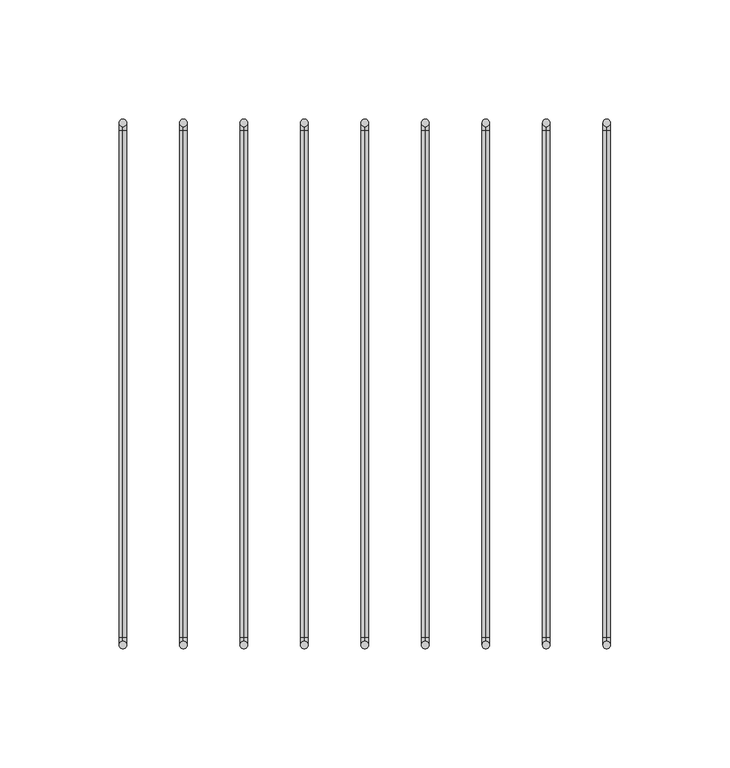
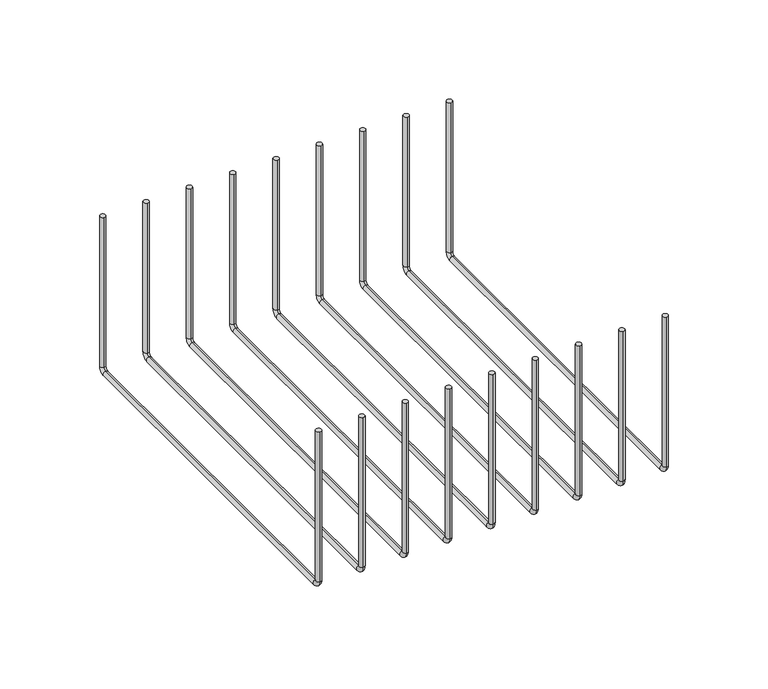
"""IFC4 building model written with IfcOpenShell, lengths in millimetres: furniture geometry."""

from ifc_helpers import new_model, si_unit, point, frame, origin, place, context, project, spatial, circle_curve, ellipse_curve, trimmed, source, transform, mapped, element, save
from ifc_brep_helpers import plane_surface, cylinder_surface, revolved_surface, advanced_brep


def furniture_5af42f3c(model_context):
    return source(origin(), model_context, "Body", "AdvancedBrep", [
        advanced_brep(
        [(100.71608, -152.3273724, 1249.3942846), (100.71608, -149.1523724, 1249.3942846), (100.71608, 69.9226276, 1249.3942846), (100.71608, 66.7476276, 1249.3942846), (100.71608, -152.3273724, 1156.525988), (100.71608, -149.1523724, 1156.525988), (100.71608, -147.5648724, 1154.938488), (100.71608, -147.5648724, 1151.763488), (100.71608, 65.1601276, 1151.763488), (100.71608, 65.1601276, 1154.938488), (100.71608, 66.7476276, 1156.525988), (100.71608, 69.9226276, 1156.525988)],
        [
            (0, 1, circle_curve(frame((100.71608, -150.7398724, 1249.3942846), z_axis=(0.0, 0.0, 1.0), x_axis=(1.0, 0.0, 0.0)), 1.5875)),
            (1, 0, circle_curve(frame((100.71608, -150.7398724, 1249.3942846), z_axis=(0.0, 0.0, 1.0), x_axis=(1.0, 0.0, 0.0)), 1.5875)),
            (2, 3, circle_curve(frame((100.71608, 68.3351276, 1249.3942846), z_axis=(0.0, 0.0, 1.0), x_axis=(1.0, 0.0, 0.0)), 1.5875)),
            (3, 2, circle_curve(frame((100.71608, 68.3351276, 1249.3942846), z_axis=(0.0, 0.0, 1.0), x_axis=(1.0, 0.0, 0.0)), 1.5875)),
            (0, 4),
            (4, 5, circle_curve(frame((100.71608, -150.7398724, 1156.525988), z_axis=(0.0, 0.0, 1.0), x_axis=(1.0, 0.0, 0.0)), 1.5875)),
            (5, 1),
            (5, 4, circle_curve(frame((100.71608, -150.7398724, 1156.525988), z_axis=(0.0, 0.0, 1.0), x_axis=(1.0, 0.0, 0.0)), 1.5875)),
            (6, 7, circle_curve(frame((100.71608, -147.5648724, 1153.350988), z_axis=(0.0, 1.0, 0.0), x_axis=(1.0, 0.0, 0.0)), 1.5875)),
            (7, 8),
            (8, 9, circle_curve(frame((100.71608, 65.1601276, 1153.350988), z_axis=(0.0, -1.0, 0.0), x_axis=(1.0, 0.0, 0.0)), 1.5875)),
            (9, 6),
            (7, 6, circle_curve(frame((100.71608, -147.5648724, 1153.350988), z_axis=(0.0, 1.0, 0.0), x_axis=(1.0, 0.0, 0.0)), 1.5875)),
            (9, 8, circle_curve(frame((100.71608, 65.1601276, 1153.350988), z_axis=(0.0, -1.0, 0.0), x_axis=(1.0, 0.0, 0.0)), 1.5875)),
            (10, 11, circle_curve(frame((100.71608, 68.3351276, 1156.525988), z_axis=(0.0, 0.0, 1.0), x_axis=(1.0, 0.0, 0.0)), 1.5875)),
            (11, 2),
            (3, 10),
            (11, 10, circle_curve(frame((100.71608, 68.3351276, 1156.525988), z_axis=(0.0, 0.0, 1.0), x_axis=(1.0, 0.0, 0.0)), 1.5875)),
            (6, 5, circle_curve(frame((100.71608, -147.5648724, 1156.525988), z_axis=(-1.0, 0.0, 0.0), x_axis=(0.0, -1.0, 0.0)), 1.5875)),
            (4, 7, circle_curve(frame((100.71608, -147.5648724, 1156.525988), z_axis=(1.0, 0.0, 0.0), x_axis=(0.0, -1.0, 0.0)), 4.7625)),
            (10, 9, circle_curve(frame((100.71608, 65.1601276, 1156.525988), z_axis=(-1.0, 0.0, 0.0), x_axis=(0.0, 0.0, -1.0)), 1.5875)),
            (8, 11, circle_curve(frame((100.71608, 65.1601276, 1156.525988), z_axis=(1.0, 0.0, 0.0), x_axis=(0.0, 0.0, -1.0)), 4.7625)),
        ],
        [
            plane_surface(frame((100.71608, -152.3273724, 1249.3942846), z_axis=(0.0, 0.0, 1.0), x_axis=(1.0, 0.0, 0.0))),
            plane_surface(frame((100.71608, 69.9226276, 1249.3942846), z_axis=(0.0, 0.0, 1.0), x_axis=(1.0, 0.0, 0.0))),
            cylinder_surface(frame((100.71608, -150.7398724, 1249.3942846), z_axis=(0.0, 0.0, 1.0), x_axis=(1.0, 0.0, 0.0)), 1.5875),
            cylinder_surface(frame((100.71608, -147.5648724, 1153.350988), z_axis=(0.0, -1.0, 0.0), x_axis=(1.0, 0.0, 0.0)), 1.5875),
            cylinder_surface(frame((100.71608, 68.3351276, 1156.525988), z_axis=(0.0, 0.0, -1.0), x_axis=(1.0, 0.0, 0.0)), 1.5875),
            revolved_surface(trimmed(ellipse_curve(frame((100.71608, -150.7398724, 1156.525988), z_axis=(0.0, 0.0, 1.0), x_axis=(1.0, 0.0, 0.0)), 1.5875, 1.5875), [point((100.71608, -152.3273724, 1156.525988))], [point((100.71608, -149.1523724, 1156.525988))], True, "CARTESIAN"), (100.71608, -147.5648724, 1156.525988), (1.0, 0.0, 0.0)),
            revolved_surface(trimmed(ellipse_curve(frame((100.71608, -150.7398724, 1156.525988), z_axis=(0.0, 0.0, 1.0), x_axis=(1.0, 0.0, 0.0)), 1.5875, 1.5875), [point((100.71608, -149.1523724, 1156.525988))], [point((100.71608, -152.3273724, 1156.525988))], True, "CARTESIAN"), (100.71608, -147.5648724, 1156.525988), (1.0, 0.0, 0.0)),
            revolved_surface(trimmed(ellipse_curve(frame((100.71608, 65.1601276, 1153.350988), z_axis=(0.0, -1.0, 0.0), x_axis=(1.0, 0.0, 0.0)), 1.5875, 1.5875), [point((100.71608, 65.1601276, 1151.763488))], [point((100.71608, 65.1601276, 1154.938488))], True, "CARTESIAN"), (100.71608, 65.1601276, 1156.525988), (1.0, 0.0, 0.0)),
            revolved_surface(trimmed(ellipse_curve(frame((100.71608, 65.1601276, 1153.350988), z_axis=(0.0, -1.0, 0.0), x_axis=(1.0, 0.0, 0.0)), 1.5875, 1.5875), [point((100.71608, 65.1601276, 1154.938488))], [point((100.71608, 65.1601276, 1151.763488))], True, "CARTESIAN"), (100.71608, 65.1601276, 1156.525988), (1.0, 0.0, 0.0)),
        ],
        [
            (0, [[1, 2]]),
            (1, [[3, 4]]),
            (2, [[-1, 5, 6, 7]]),
            (2, [[-2, -7, 8, -5]]),
            (3, [[9, 10, 11, 12]]),
            (3, [[13, -12, 14, -10]]),
            (4, [[15, 16, -4, 17]]),
            (4, [[18, -17, -3, -16]]),
            (5, [[19, -6, 20, -9]]),
            (6, [[-20, -8, -19, -13]]),
            (7, [[21, -11, 22, -15]]),
            (8, [[-22, -14, -21, -18]]),
        ],
    ),
        advanced_brep(
        [(75.31608, -152.3273724, 1249.3942846), (75.31608, -149.1523724, 1249.3942846), (75.31608, 69.9226276, 1249.3942846), (75.31608, 66.7476276, 1249.3942846), (75.31608, -152.3273724, 1156.525988), (75.31608, -149.1523724, 1156.525988), (75.31608, -147.5648724, 1154.938488), (75.31608, -147.5648724, 1151.763488), (75.31608, 65.1601276, 1151.763488), (75.31608, 65.1601276, 1154.938488), (75.31608, 66.7476276, 1156.525988), (75.31608, 69.9226276, 1156.525988)],
        [
            (0, 1, circle_curve(frame((75.31608, -150.7398724, 1249.3942846), z_axis=(0.0, 0.0, 1.0), x_axis=(1.0, 0.0, 0.0)), 1.5875)),
            (1, 0, circle_curve(frame((75.31608, -150.7398724, 1249.3942846), z_axis=(0.0, 0.0, 1.0), x_axis=(1.0, 0.0, 0.0)), 1.5875)),
            (2, 3, circle_curve(frame((75.31608, 68.3351276, 1249.3942846), z_axis=(0.0, 0.0, 1.0), x_axis=(1.0, 0.0, 0.0)), 1.5875)),
            (3, 2, circle_curve(frame((75.31608, 68.3351276, 1249.3942846), z_axis=(0.0, 0.0, 1.0), x_axis=(1.0, 0.0, 0.0)), 1.5875)),
            (0, 4),
            (4, 5, circle_curve(frame((75.31608, -150.7398724, 1156.525988), z_axis=(0.0, 0.0, 1.0), x_axis=(1.0, 0.0, 0.0)), 1.5875)),
            (5, 1),
            (5, 4, circle_curve(frame((75.31608, -150.7398724, 1156.525988), z_axis=(0.0, 0.0, 1.0), x_axis=(1.0, 0.0, 0.0)), 1.5875)),
            (6, 7, circle_curve(frame((75.31608, -147.5648724, 1153.350988), z_axis=(0.0, 1.0, 0.0), x_axis=(1.0, 0.0, 0.0)), 1.5875)),
            (7, 8),
            (8, 9, circle_curve(frame((75.31608, 65.1601276, 1153.350988), z_axis=(0.0, -1.0, 0.0), x_axis=(1.0, 0.0, 0.0)), 1.5875)),
            (9, 6),
            (7, 6, circle_curve(frame((75.31608, -147.5648724, 1153.350988), z_axis=(0.0, 1.0, 0.0), x_axis=(1.0, 0.0, 0.0)), 1.5875)),
            (9, 8, circle_curve(frame((75.31608, 65.1601276, 1153.350988), z_axis=(0.0, -1.0, 0.0), x_axis=(1.0, 0.0, 0.0)), 1.5875)),
            (10, 11, circle_curve(frame((75.31608, 68.3351276, 1156.525988), z_axis=(0.0, 0.0, 1.0), x_axis=(1.0, 0.0, 0.0)), 1.5875)),
            (11, 2),
            (3, 10),
            (11, 10, circle_curve(frame((75.31608, 68.3351276, 1156.525988), z_axis=(0.0, 0.0, 1.0), x_axis=(1.0, 0.0, 0.0)), 1.5875)),
            (6, 5, circle_curve(frame((75.31608, -147.5648724, 1156.525988), z_axis=(-1.0, 0.0, 0.0), x_axis=(0.0, -1.0, 0.0)), 1.5875)),
            (4, 7, circle_curve(frame((75.31608, -147.5648724, 1156.525988), z_axis=(1.0, 0.0, 0.0), x_axis=(0.0, -1.0, 0.0)), 4.7625)),
            (10, 9, circle_curve(frame((75.31608, 65.1601276, 1156.525988), z_axis=(-1.0, 0.0, 0.0), x_axis=(0.0, 0.0, -1.0)), 1.5875)),
            (8, 11, circle_curve(frame((75.31608, 65.1601276, 1156.525988), z_axis=(1.0, 0.0, 0.0), x_axis=(0.0, 0.0, -1.0)), 4.7625)),
        ],
        [
            plane_surface(frame((75.31608, -152.3273724, 1249.3942846), z_axis=(0.0, 0.0, 1.0), x_axis=(1.0, 0.0, 0.0))),
            plane_surface(frame((75.31608, 69.9226276, 1249.3942846), z_axis=(0.0, 0.0, 1.0), x_axis=(1.0, 0.0, 0.0))),
            cylinder_surface(frame((75.31608, -150.7398724, 1249.3942846), z_axis=(0.0, 0.0, 1.0), x_axis=(1.0, 0.0, 0.0)), 1.5875),
            cylinder_surface(frame((75.31608, -147.5648724, 1153.350988), z_axis=(0.0, -1.0, 0.0), x_axis=(1.0, 0.0, 0.0)), 1.5875),
            cylinder_surface(frame((75.31608, 68.3351276, 1156.525988), z_axis=(0.0, 0.0, -1.0), x_axis=(1.0, 0.0, 0.0)), 1.5875),
            revolved_surface(trimmed(ellipse_curve(frame((75.31608, -150.7398724, 1156.525988), z_axis=(0.0, 0.0, 1.0), x_axis=(1.0, 0.0, 0.0)), 1.5875, 1.5875), [point((75.31608, -152.3273724, 1156.525988))], [point((75.31608, -149.1523724, 1156.525988))], True, "CARTESIAN"), (75.31608, -147.5648724, 1156.525988), (1.0, 0.0, 0.0)),
            revolved_surface(trimmed(ellipse_curve(frame((75.31608, -150.7398724, 1156.525988), z_axis=(0.0, 0.0, 1.0), x_axis=(1.0, 0.0, 0.0)), 1.5875, 1.5875), [point((75.31608, -149.1523724, 1156.525988))], [point((75.31608, -152.3273724, 1156.525988))], True, "CARTESIAN"), (75.31608, -147.5648724, 1156.525988), (1.0, 0.0, 0.0)),
            revolved_surface(trimmed(ellipse_curve(frame((75.31608, 65.1601276, 1153.350988), z_axis=(0.0, -1.0, 0.0), x_axis=(1.0, 0.0, 0.0)), 1.5875, 1.5875), [point((75.31608, 65.1601276, 1151.763488))], [point((75.31608, 65.1601276, 1154.938488))], True, "CARTESIAN"), (75.31608, 65.1601276, 1156.525988), (1.0, 0.0, 0.0)),
            revolved_surface(trimmed(ellipse_curve(frame((75.31608, 65.1601276, 1153.350988), z_axis=(0.0, -1.0, 0.0), x_axis=(1.0, 0.0, 0.0)), 1.5875, 1.5875), [point((75.31608, 65.1601276, 1154.938488))], [point((75.31608, 65.1601276, 1151.763488))], True, "CARTESIAN"), (75.31608, 65.1601276, 1156.525988), (1.0, 0.0, 0.0)),
        ],
        [
            (0, [[1, 2]]),
            (1, [[3, 4]]),
            (2, [[-1, 5, 6, 7]]),
            (2, [[-2, -7, 8, -5]]),
            (3, [[9, 10, 11, 12]]),
            (3, [[13, -12, 14, -10]]),
            (4, [[15, 16, -4, 17]]),
            (4, [[18, -17, -3, -16]]),
            (5, [[19, -6, 20, -9]]),
            (6, [[-20, -8, -19, -13]]),
            (7, [[21, -11, 22, -15]]),
            (8, [[-22, -14, -21, -18]]),
        ],
    ),
        advanced_brep(
        [(49.91608, -152.3273724, 1249.3942846), (49.91608, -149.1523724, 1249.3942846), (49.91608, 69.9226276, 1249.3942846), (49.91608, 66.7476276, 1249.3942846), (49.91608, -152.3273724, 1156.525988), (49.91608, -149.1523724, 1156.525988), (49.91608, -147.5648724, 1154.938488), (49.91608, -147.5648724, 1151.763488), (49.91608, 65.1601276, 1151.763488), (49.91608, 65.1601276, 1154.938488), (49.91608, 66.7476276, 1156.525988), (49.91608, 69.9226276, 1156.525988)],
        [
            (0, 1, circle_curve(frame((49.91608, -150.7398724, 1249.3942846), z_axis=(0.0, 0.0, 1.0), x_axis=(1.0, 0.0, 0.0)), 1.5875)),
            (1, 0, circle_curve(frame((49.91608, -150.7398724, 1249.3942846), z_axis=(0.0, 0.0, 1.0), x_axis=(1.0, 0.0, 0.0)), 1.5875)),
            (2, 3, circle_curve(frame((49.91608, 68.3351276, 1249.3942846), z_axis=(0.0, 0.0, 1.0), x_axis=(1.0, 0.0, 0.0)), 1.5875)),
            (3, 2, circle_curve(frame((49.91608, 68.3351276, 1249.3942846), z_axis=(0.0, 0.0, 1.0), x_axis=(1.0, 0.0, 0.0)), 1.5875)),
            (0, 4),
            (4, 5, circle_curve(frame((49.91608, -150.7398724, 1156.525988), z_axis=(0.0, 0.0, 1.0), x_axis=(1.0, 0.0, 0.0)), 1.5875)),
            (5, 1),
            (5, 4, circle_curve(frame((49.91608, -150.7398724, 1156.525988), z_axis=(0.0, 0.0, 1.0), x_axis=(1.0, 0.0, 0.0)), 1.5875)),
            (6, 7, circle_curve(frame((49.91608, -147.5648724, 1153.350988), z_axis=(0.0, 1.0, 0.0), x_axis=(1.0, 0.0, 0.0)), 1.5875)),
            (7, 8),
            (8, 9, circle_curve(frame((49.91608, 65.1601276, 1153.350988), z_axis=(0.0, -1.0, 0.0), x_axis=(1.0, 0.0, 0.0)), 1.5875)),
            (9, 6),
            (7, 6, circle_curve(frame((49.91608, -147.5648724, 1153.350988), z_axis=(0.0, 1.0, 0.0), x_axis=(1.0, 0.0, 0.0)), 1.5875)),
            (9, 8, circle_curve(frame((49.91608, 65.1601276, 1153.350988), z_axis=(0.0, -1.0, 0.0), x_axis=(1.0, 0.0, 0.0)), 1.5875)),
            (10, 11, circle_curve(frame((49.91608, 68.3351276, 1156.525988), z_axis=(0.0, 0.0, 1.0), x_axis=(1.0, 0.0, 0.0)), 1.5875)),
            (11, 2),
            (3, 10),
            (11, 10, circle_curve(frame((49.91608, 68.3351276, 1156.525988), z_axis=(0.0, 0.0, 1.0), x_axis=(1.0, 0.0, 0.0)), 1.5875)),
            (6, 5, circle_curve(frame((49.91608, -147.5648724, 1156.525988), z_axis=(-1.0, 0.0, 0.0), x_axis=(0.0, -1.0, 0.0)), 1.5875)),
            (4, 7, circle_curve(frame((49.91608, -147.5648724, 1156.525988), z_axis=(1.0, 0.0, 0.0), x_axis=(0.0, -1.0, 0.0)), 4.7625)),
            (10, 9, circle_curve(frame((49.91608, 65.1601276, 1156.525988), z_axis=(-1.0, 0.0, 0.0), x_axis=(0.0, 0.0, -1.0)), 1.5875)),
            (8, 11, circle_curve(frame((49.91608, 65.1601276, 1156.525988), z_axis=(1.0, 0.0, 0.0), x_axis=(0.0, 0.0, -1.0)), 4.7625)),
        ],
        [
            plane_surface(frame((49.91608, -152.3273724, 1249.3942846), z_axis=(0.0, 0.0, 1.0), x_axis=(1.0, 0.0, 0.0))),
            plane_surface(frame((49.91608, 69.9226276, 1249.3942846), z_axis=(0.0, 0.0, 1.0), x_axis=(1.0, 0.0, 0.0))),
            cylinder_surface(frame((49.91608, -150.7398724, 1249.3942846), z_axis=(0.0, 0.0, 1.0), x_axis=(1.0, 0.0, 0.0)), 1.5875),
            cylinder_surface(frame((49.91608, -147.5648724, 1153.350988), z_axis=(0.0, -1.0, 0.0), x_axis=(1.0, 0.0, 0.0)), 1.5875),
            cylinder_surface(frame((49.91608, 68.3351276, 1156.525988), z_axis=(0.0, 0.0, -1.0), x_axis=(1.0, 0.0, 0.0)), 1.5875),
            revolved_surface(trimmed(ellipse_curve(frame((49.91608, -150.7398724, 1156.525988), z_axis=(0.0, 0.0, 1.0), x_axis=(1.0, 0.0, 0.0)), 1.5875, 1.5875), [point((49.91608, -152.3273724, 1156.525988))], [point((49.91608, -149.1523724, 1156.525988))], True, "CARTESIAN"), (49.91608, -147.5648724, 1156.525988), (1.0, 0.0, 0.0)),
            revolved_surface(trimmed(ellipse_curve(frame((49.91608, -150.7398724, 1156.525988), z_axis=(0.0, 0.0, 1.0), x_axis=(1.0, 0.0, 0.0)), 1.5875, 1.5875), [point((49.91608, -149.1523724, 1156.525988))], [point((49.91608, -152.3273724, 1156.525988))], True, "CARTESIAN"), (49.91608, -147.5648724, 1156.525988), (1.0, 0.0, 0.0)),
            revolved_surface(trimmed(ellipse_curve(frame((49.91608, 65.1601276, 1153.350988), z_axis=(0.0, -1.0, 0.0), x_axis=(1.0, 0.0, 0.0)), 1.5875, 1.5875), [point((49.91608, 65.1601276, 1151.763488))], [point((49.91608, 65.1601276, 1154.938488))], True, "CARTESIAN"), (49.91608, 65.1601276, 1156.525988), (1.0, 0.0, 0.0)),
            revolved_surface(trimmed(ellipse_curve(frame((49.91608, 65.1601276, 1153.350988), z_axis=(0.0, -1.0, 0.0), x_axis=(1.0, 0.0, 0.0)), 1.5875, 1.5875), [point((49.91608, 65.1601276, 1154.938488))], [point((49.91608, 65.1601276, 1151.763488))], True, "CARTESIAN"), (49.91608, 65.1601276, 1156.525988), (1.0, 0.0, 0.0)),
        ],
        [
            (0, [[1, 2]]),
            (1, [[3, 4]]),
            (2, [[-1, 5, 6, 7]]),
            (2, [[-2, -7, 8, -5]]),
            (3, [[9, 10, 11, 12]]),
            (3, [[13, -12, 14, -10]]),
            (4, [[15, 16, -4, 17]]),
            (4, [[18, -17, -3, -16]]),
            (5, [[19, -6, 20, -9]]),
            (6, [[-20, -8, -19, -13]]),
            (7, [[21, -11, 22, -15]]),
            (8, [[-22, -14, -21, -18]]),
        ],
    ),
        advanced_brep(
        [(24.51608, -152.3273724, 1249.3942846), (24.51608, -149.1523724, 1249.3942846), (24.51608, 69.9226276, 1249.3942846), (24.51608, 66.7476276, 1249.3942846), (24.51608, -152.3273724, 1156.525988), (24.51608, -149.1523724, 1156.525988), (24.51608, -147.5648724, 1154.938488), (24.51608, -147.5648724, 1151.763488), (24.51608, 65.1601276, 1151.763488), (24.51608, 65.1601276, 1154.938488), (24.51608, 66.7476276, 1156.525988), (24.51608, 69.9226276, 1156.525988)],
        [
            (0, 1, circle_curve(frame((24.51608, -150.7398724, 1249.3942846), z_axis=(0.0, 0.0, 1.0), x_axis=(1.0, 0.0, 0.0)), 1.5875)),
            (1, 0, circle_curve(frame((24.51608, -150.7398724, 1249.3942846), z_axis=(0.0, 0.0, 1.0), x_axis=(1.0, 0.0, 0.0)), 1.5875)),
            (2, 3, circle_curve(frame((24.51608, 68.3351276, 1249.3942846), z_axis=(0.0, 0.0, 1.0), x_axis=(1.0, 0.0, 0.0)), 1.5875)),
            (3, 2, circle_curve(frame((24.51608, 68.3351276, 1249.3942846), z_axis=(0.0, 0.0, 1.0), x_axis=(1.0, 0.0, 0.0)), 1.5875)),
            (0, 4),
            (4, 5, circle_curve(frame((24.51608, -150.7398724, 1156.525988), z_axis=(0.0, 0.0, 1.0), x_axis=(1.0, 0.0, 0.0)), 1.5875)),
            (5, 1),
            (5, 4, circle_curve(frame((24.51608, -150.7398724, 1156.525988), z_axis=(0.0, 0.0, 1.0), x_axis=(1.0, 0.0, 0.0)), 1.5875)),
            (6, 7, circle_curve(frame((24.51608, -147.5648724, 1153.350988), z_axis=(0.0, 1.0, 0.0), x_axis=(1.0, 0.0, 0.0)), 1.5875)),
            (7, 8),
            (8, 9, circle_curve(frame((24.51608, 65.1601276, 1153.350988), z_axis=(0.0, -1.0, 0.0), x_axis=(1.0, 0.0, 0.0)), 1.5875)),
            (9, 6),
            (7, 6, circle_curve(frame((24.51608, -147.5648724, 1153.350988), z_axis=(0.0, 1.0, 0.0), x_axis=(1.0, 0.0, 0.0)), 1.5875)),
            (9, 8, circle_curve(frame((24.51608, 65.1601276, 1153.350988), z_axis=(0.0, -1.0, 0.0), x_axis=(1.0, 0.0, 0.0)), 1.5875)),
            (10, 11, circle_curve(frame((24.51608, 68.3351276, 1156.525988), z_axis=(0.0, 0.0, 1.0), x_axis=(1.0, 0.0, 0.0)), 1.5875)),
            (11, 2),
            (3, 10),
            (11, 10, circle_curve(frame((24.51608, 68.3351276, 1156.525988), z_axis=(0.0, 0.0, 1.0), x_axis=(1.0, 0.0, 0.0)), 1.5875)),
            (6, 5, circle_curve(frame((24.51608, -147.5648724, 1156.525988), z_axis=(-1.0, 0.0, 0.0), x_axis=(0.0, -1.0, 0.0)), 1.5875)),
            (4, 7, circle_curve(frame((24.51608, -147.5648724, 1156.525988), z_axis=(1.0, 0.0, 0.0), x_axis=(0.0, -1.0, 0.0)), 4.7625)),
            (10, 9, circle_curve(frame((24.51608, 65.1601276, 1156.525988), z_axis=(-1.0, 0.0, 0.0), x_axis=(0.0, 0.0, -1.0)), 1.5875)),
            (8, 11, circle_curve(frame((24.51608, 65.1601276, 1156.525988), z_axis=(1.0, 0.0, 0.0), x_axis=(0.0, 0.0, -1.0)), 4.7625)),
        ],
        [
            plane_surface(frame((24.51608, -152.3273724, 1249.3942846), z_axis=(0.0, 0.0, 1.0), x_axis=(1.0, 0.0, 0.0))),
            plane_surface(frame((24.51608, 69.9226276, 1249.3942846), z_axis=(0.0, 0.0, 1.0), x_axis=(1.0, 0.0, 0.0))),
            cylinder_surface(frame((24.51608, -150.7398724, 1249.3942846), z_axis=(0.0, 0.0, 1.0), x_axis=(1.0, 0.0, 0.0)), 1.5875),
            cylinder_surface(frame((24.51608, -147.5648724, 1153.350988), z_axis=(0.0, -1.0, 0.0), x_axis=(1.0, 0.0, 0.0)), 1.5875),
            cylinder_surface(frame((24.51608, 68.3351276, 1156.525988), z_axis=(0.0, 0.0, -1.0), x_axis=(1.0, 0.0, 0.0)), 1.5875),
            revolved_surface(trimmed(ellipse_curve(frame((24.51608, -150.7398724, 1156.525988), z_axis=(0.0, 0.0, 1.0), x_axis=(1.0, 0.0, 0.0)), 1.5875, 1.5875), [point((24.51608, -152.3273724, 1156.525988))], [point((24.51608, -149.1523724, 1156.525988))], True, "CARTESIAN"), (24.51608, -147.5648724, 1156.525988), (1.0, 0.0, 0.0)),
            revolved_surface(trimmed(ellipse_curve(frame((24.51608, -150.7398724, 1156.525988), z_axis=(0.0, 0.0, 1.0), x_axis=(1.0, 0.0, 0.0)), 1.5875, 1.5875), [point((24.51608, -149.1523724, 1156.525988))], [point((24.51608, -152.3273724, 1156.525988))], True, "CARTESIAN"), (24.51608, -147.5648724, 1156.525988), (1.0, 0.0, 0.0)),
            revolved_surface(trimmed(ellipse_curve(frame((24.51608, 65.1601276, 1153.350988), z_axis=(0.0, -1.0, 0.0), x_axis=(1.0, 0.0, 0.0)), 1.5875, 1.5875), [point((24.51608, 65.1601276, 1151.763488))], [point((24.51608, 65.1601276, 1154.938488))], True, "CARTESIAN"), (24.51608, 65.1601276, 1156.525988), (1.0, 0.0, 0.0)),
            revolved_surface(trimmed(ellipse_curve(frame((24.51608, 65.1601276, 1153.350988), z_axis=(0.0, -1.0, 0.0), x_axis=(1.0, 0.0, 0.0)), 1.5875, 1.5875), [point((24.51608, 65.1601276, 1154.938488))], [point((24.51608, 65.1601276, 1151.763488))], True, "CARTESIAN"), (24.51608, 65.1601276, 1156.525988), (1.0, 0.0, 0.0)),
        ],
        [
            (0, [[1, 2]]),
            (1, [[3, 4]]),
            (2, [[-1, 5, 6, 7]]),
            (2, [[-2, -7, 8, -5]]),
            (3, [[9, 10, 11, 12]]),
            (3, [[13, -12, 14, -10]]),
            (4, [[15, 16, -4, 17]]),
            (4, [[18, -17, -3, -16]]),
            (5, [[19, -6, 20, -9]]),
            (6, [[-20, -8, -19, -13]]),
            (7, [[21, -11, 22, -15]]),
            (8, [[-22, -14, -21, -18]]),
        ],
    ),
        advanced_brep(
        [(-0.88392, -152.3273724, 1249.3942846), (-0.88392, -149.1523724, 1249.3942846), (-0.88392, 69.9226276, 1249.3942846), (-0.88392, 66.7476276, 1249.3942846), (-0.88392, -152.3273724, 1156.525988), (-0.88392, -149.1523724, 1156.525988), (-0.88392, -147.5648724, 1154.938488), (-0.88392, -147.5648724, 1151.763488), (-0.88392, 65.1601276, 1151.763488), (-0.88392, 65.1601276, 1154.938488), (-0.88392, 66.7476276, 1156.525988), (-0.88392, 69.9226276, 1156.525988)],
        [
            (0, 1, circle_curve(frame((-0.88392, -150.7398724, 1249.3942846), z_axis=(0.0, 0.0, 1.0), x_axis=(1.0, 0.0, 0.0)), 1.5875)),
            (1, 0, circle_curve(frame((-0.88392, -150.7398724, 1249.3942846), z_axis=(0.0, 0.0, 1.0), x_axis=(1.0, 0.0, 0.0)), 1.5875)),
            (2, 3, circle_curve(frame((-0.88392, 68.3351276, 1249.3942846), z_axis=(0.0, 0.0, 1.0), x_axis=(1.0, 0.0, 0.0)), 1.5875)),
            (3, 2, circle_curve(frame((-0.88392, 68.3351276, 1249.3942846), z_axis=(0.0, 0.0, 1.0), x_axis=(1.0, 0.0, 0.0)), 1.5875)),
            (0, 4),
            (4, 5, circle_curve(frame((-0.88392, -150.7398724, 1156.525988), z_axis=(0.0, 0.0, 1.0), x_axis=(1.0, 0.0, 0.0)), 1.5875)),
            (5, 1),
            (5, 4, circle_curve(frame((-0.88392, -150.7398724, 1156.525988), z_axis=(0.0, 0.0, 1.0), x_axis=(1.0, 0.0, 0.0)), 1.5875)),
            (6, 7, circle_curve(frame((-0.88392, -147.5648724, 1153.350988), z_axis=(0.0, 1.0, 0.0), x_axis=(1.0, 0.0, 0.0)), 1.5875)),
            (7, 8),
            (8, 9, circle_curve(frame((-0.88392, 65.1601276, 1153.350988), z_axis=(0.0, -1.0, 0.0), x_axis=(1.0, 0.0, 0.0)), 1.5875)),
            (9, 6),
            (7, 6, circle_curve(frame((-0.88392, -147.5648724, 1153.350988), z_axis=(0.0, 1.0, 0.0), x_axis=(1.0, 0.0, 0.0)), 1.5875)),
            (9, 8, circle_curve(frame((-0.88392, 65.1601276, 1153.350988), z_axis=(0.0, -1.0, 0.0), x_axis=(1.0, 0.0, 0.0)), 1.5875)),
            (10, 11, circle_curve(frame((-0.88392, 68.3351276, 1156.525988), z_axis=(0.0, 0.0, 1.0), x_axis=(1.0, 0.0, 0.0)), 1.5875)),
            (11, 2),
            (3, 10),
            (11, 10, circle_curve(frame((-0.88392, 68.3351276, 1156.525988), z_axis=(0.0, 0.0, 1.0), x_axis=(1.0, 0.0, 0.0)), 1.5875)),
            (6, 5, circle_curve(frame((-0.88392, -147.5648724, 1156.525988), z_axis=(-1.0, 0.0, 0.0), x_axis=(0.0, -1.0, 0.0)), 1.5875)),
            (4, 7, circle_curve(frame((-0.88392, -147.5648724, 1156.525988), z_axis=(1.0, 0.0, 0.0), x_axis=(0.0, -1.0, 0.0)), 4.7625)),
            (10, 9, circle_curve(frame((-0.88392, 65.1601276, 1156.525988), z_axis=(-1.0, 0.0, 0.0), x_axis=(0.0, 0.0, -1.0)), 1.5875)),
            (8, 11, circle_curve(frame((-0.88392, 65.1601276, 1156.525988), z_axis=(1.0, 0.0, 0.0), x_axis=(0.0, 0.0, -1.0)), 4.7625)),
        ],
        [
            plane_surface(frame((-0.88392, -152.3273724, 1249.3942846), z_axis=(0.0, 0.0, 1.0), x_axis=(1.0, 0.0, 0.0))),
            plane_surface(frame((-0.88392, 69.9226276, 1249.3942846), z_axis=(0.0, 0.0, 1.0), x_axis=(1.0, 0.0, 0.0))),
            cylinder_surface(frame((-0.88392, -150.7398724, 1249.3942846), z_axis=(0.0, 0.0, 1.0), x_axis=(1.0, 0.0, 0.0)), 1.5875),
            cylinder_surface(frame((-0.88392, -147.5648724, 1153.350988), z_axis=(0.0, -1.0, 0.0), x_axis=(1.0, 0.0, 0.0)), 1.5875),
            cylinder_surface(frame((-0.88392, 68.3351276, 1156.525988), z_axis=(0.0, 0.0, -1.0), x_axis=(1.0, 0.0, 0.0)), 1.5875),
            revolved_surface(trimmed(ellipse_curve(frame((-0.88392, -150.7398724, 1156.525988), z_axis=(0.0, 0.0, 1.0), x_axis=(1.0, 0.0, 0.0)), 1.5875, 1.5875), [point((-0.88392, -152.3273724, 1156.525988))], [point((-0.88392, -149.1523724, 1156.525988))], True, "CARTESIAN"), (-0.88392, -147.5648724, 1156.525988), (1.0, 0.0, 0.0)),
            revolved_surface(trimmed(ellipse_curve(frame((-0.88392, -150.7398724, 1156.525988), z_axis=(0.0, 0.0, 1.0), x_axis=(1.0, 0.0, 0.0)), 1.5875, 1.5875), [point((-0.88392, -149.1523724, 1156.525988))], [point((-0.88392, -152.3273724, 1156.525988))], True, "CARTESIAN"), (-0.88392, -147.5648724, 1156.525988), (1.0, 0.0, 0.0)),
            revolved_surface(trimmed(ellipse_curve(frame((-0.88392, 65.1601276, 1153.350988), z_axis=(0.0, -1.0, 0.0), x_axis=(1.0, 0.0, 0.0)), 1.5875, 1.5875), [point((-0.88392, 65.1601276, 1151.763488))], [point((-0.88392, 65.1601276, 1154.938488))], True, "CARTESIAN"), (-0.88392, 65.1601276, 1156.525988), (1.0, 0.0, 0.0)),
            revolved_surface(trimmed(ellipse_curve(frame((-0.88392, 65.1601276, 1153.350988), z_axis=(0.0, -1.0, 0.0), x_axis=(1.0, 0.0, 0.0)), 1.5875, 1.5875), [point((-0.88392, 65.1601276, 1154.938488))], [point((-0.88392, 65.1601276, 1151.763488))], True, "CARTESIAN"), (-0.88392, 65.1601276, 1156.525988), (1.0, 0.0, 0.0)),
        ],
        [
            (0, [[1, 2]]),
            (1, [[3, 4]]),
            (2, [[-1, 5, 6, 7]]),
            (2, [[-2, -7, 8, -5]]),
            (3, [[9, 10, 11, 12]]),
            (3, [[13, -12, 14, -10]]),
            (4, [[15, 16, -4, 17]]),
            (4, [[18, -17, -3, -16]]),
            (5, [[19, -6, 20, -9]]),
            (6, [[-20, -8, -19, -13]]),
            (7, [[21, -11, 22, -15]]),
            (8, [[-22, -14, -21, -18]]),
        ],
    ),
        advanced_brep(
        [(-26.28392, -152.3273724, 1249.3942846), (-26.28392, -149.1523724, 1249.3942846), (-26.28392, 69.9226276, 1249.3942846), (-26.28392, 66.7476276, 1249.3942846), (-26.28392, -152.3273724, 1156.525988), (-26.28392, -149.1523724, 1156.525988), (-26.28392, -147.5648724, 1154.938488), (-26.28392, -147.5648724, 1151.763488), (-26.28392, 65.1601276, 1151.763488), (-26.28392, 65.1601276, 1154.938488), (-26.28392, 66.7476276, 1156.525988), (-26.28392, 69.9226276, 1156.525988)],
        [
            (0, 1, circle_curve(frame((-26.28392, -150.7398724, 1249.3942846), z_axis=(0.0, 0.0, 1.0), x_axis=(1.0, 0.0, 0.0)), 1.5875)),
            (1, 0, circle_curve(frame((-26.28392, -150.7398724, 1249.3942846), z_axis=(0.0, 0.0, 1.0), x_axis=(1.0, 0.0, 0.0)), 1.5875)),
            (2, 3, circle_curve(frame((-26.28392, 68.3351276, 1249.3942846), z_axis=(0.0, 0.0, 1.0), x_axis=(1.0, 0.0, 0.0)), 1.5875)),
            (3, 2, circle_curve(frame((-26.28392, 68.3351276, 1249.3942846), z_axis=(0.0, 0.0, 1.0), x_axis=(1.0, 0.0, 0.0)), 1.5875)),
            (0, 4),
            (4, 5, circle_curve(frame((-26.28392, -150.7398724, 1156.525988), z_axis=(0.0, 0.0, 1.0), x_axis=(1.0, 0.0, 0.0)), 1.5875)),
            (5, 1),
            (5, 4, circle_curve(frame((-26.28392, -150.7398724, 1156.525988), z_axis=(0.0, 0.0, 1.0), x_axis=(1.0, 0.0, 0.0)), 1.5875)),
            (6, 7, circle_curve(frame((-26.28392, -147.5648724, 1153.350988), z_axis=(0.0, 1.0, 0.0), x_axis=(1.0, 0.0, 0.0)), 1.5875)),
            (7, 8),
            (8, 9, circle_curve(frame((-26.28392, 65.1601276, 1153.350988), z_axis=(0.0, -1.0, 0.0), x_axis=(1.0, 0.0, 0.0)), 1.5875)),
            (9, 6),
            (7, 6, circle_curve(frame((-26.28392, -147.5648724, 1153.350988), z_axis=(0.0, 1.0, 0.0), x_axis=(1.0, 0.0, 0.0)), 1.5875)),
            (9, 8, circle_curve(frame((-26.28392, 65.1601276, 1153.350988), z_axis=(0.0, -1.0, 0.0), x_axis=(1.0, 0.0, 0.0)), 1.5875)),
            (10, 11, circle_curve(frame((-26.28392, 68.3351276, 1156.525988), z_axis=(0.0, 0.0, 1.0), x_axis=(1.0, 0.0, 0.0)), 1.5875)),
            (11, 2),
            (3, 10),
            (11, 10, circle_curve(frame((-26.28392, 68.3351276, 1156.525988), z_axis=(0.0, 0.0, 1.0), x_axis=(1.0, 0.0, 0.0)), 1.5875)),
            (6, 5, circle_curve(frame((-26.28392, -147.5648724, 1156.525988), z_axis=(-1.0, 0.0, 0.0), x_axis=(0.0, -1.0, 0.0)), 1.5875)),
            (4, 7, circle_curve(frame((-26.28392, -147.5648724, 1156.525988), z_axis=(1.0, 0.0, 0.0), x_axis=(0.0, -1.0, 0.0)), 4.7625)),
            (10, 9, circle_curve(frame((-26.28392, 65.1601276, 1156.525988), z_axis=(-1.0, 0.0, 0.0), x_axis=(0.0, 0.0, -1.0)), 1.5875)),
            (8, 11, circle_curve(frame((-26.28392, 65.1601276, 1156.525988), z_axis=(1.0, 0.0, 0.0), x_axis=(0.0, 0.0, -1.0)), 4.7625)),
        ],
        [
            plane_surface(frame((-26.28392, -152.3273724, 1249.3942846), z_axis=(0.0, 0.0, 1.0), x_axis=(1.0, 0.0, 0.0))),
            plane_surface(frame((-26.28392, 69.9226276, 1249.3942846), z_axis=(0.0, 0.0, 1.0), x_axis=(1.0, 0.0, 0.0))),
            cylinder_surface(frame((-26.28392, -150.7398724, 1249.3942846), z_axis=(0.0, 0.0, 1.0), x_axis=(1.0, 0.0, 0.0)), 1.5875),
            cylinder_surface(frame((-26.28392, -147.5648724, 1153.350988), z_axis=(0.0, -1.0, 0.0), x_axis=(1.0, 0.0, 0.0)), 1.5875),
            cylinder_surface(frame((-26.28392, 68.3351276, 1156.525988), z_axis=(0.0, 0.0, -1.0), x_axis=(1.0, 0.0, 0.0)), 1.5875),
            revolved_surface(trimmed(ellipse_curve(frame((-26.28392, -150.7398724, 1156.525988), z_axis=(0.0, 0.0, 1.0), x_axis=(1.0, 0.0, 0.0)), 1.5875, 1.5875), [point((-26.28392, -152.3273724, 1156.525988))], [point((-26.28392, -149.1523724, 1156.525988))], True, "CARTESIAN"), (-26.28392, -147.5648724, 1156.525988), (1.0, 0.0, 0.0)),
            revolved_surface(trimmed(ellipse_curve(frame((-26.28392, -150.7398724, 1156.525988), z_axis=(0.0, 0.0, 1.0), x_axis=(1.0, 0.0, 0.0)), 1.5875, 1.5875), [point((-26.28392, -149.1523724, 1156.525988))], [point((-26.28392, -152.3273724, 1156.525988))], True, "CARTESIAN"), (-26.28392, -147.5648724, 1156.525988), (1.0, 0.0, 0.0)),
            revolved_surface(trimmed(ellipse_curve(frame((-26.28392, 65.1601276, 1153.350988), z_axis=(0.0, -1.0, 0.0), x_axis=(1.0, 0.0, 0.0)), 1.5875, 1.5875), [point((-26.28392, 65.1601276, 1151.763488))], [point((-26.28392, 65.1601276, 1154.938488))], True, "CARTESIAN"), (-26.28392, 65.1601276, 1156.525988), (1.0, 0.0, 0.0)),
            revolved_surface(trimmed(ellipse_curve(frame((-26.28392, 65.1601276, 1153.350988), z_axis=(0.0, -1.0, 0.0), x_axis=(1.0, 0.0, 0.0)), 1.5875, 1.5875), [point((-26.28392, 65.1601276, 1154.938488))], [point((-26.28392, 65.1601276, 1151.763488))], True, "CARTESIAN"), (-26.28392, 65.1601276, 1156.525988), (1.0, 0.0, 0.0)),
        ],
        [
            (0, [[1, 2]]),
            (1, [[3, 4]]),
            (2, [[-1, 5, 6, 7]]),
            (2, [[-2, -7, 8, -5]]),
            (3, [[9, 10, 11, 12]]),
            (3, [[13, -12, 14, -10]]),
            (4, [[15, 16, -4, 17]]),
            (4, [[18, -17, -3, -16]]),
            (5, [[19, -6, 20, -9]]),
            (6, [[-20, -8, -19, -13]]),
            (7, [[21, -11, 22, -15]]),
            (8, [[-22, -14, -21, -18]]),
        ],
    ),
        advanced_brep(
        [(-51.68392, -152.3273724, 1249.3942846), (-51.68392, -149.1523724, 1249.3942846), (-51.68392, 69.9226276, 1249.3942846), (-51.68392, 66.7476276, 1249.3942846), (-51.68392, -152.3273724, 1156.525988), (-51.68392, -149.1523724, 1156.525988), (-51.68392, -147.5648724, 1154.938488), (-51.68392, -147.5648724, 1151.763488), (-51.68392, 65.1601276, 1151.763488), (-51.68392, 65.1601276, 1154.938488), (-51.68392, 66.7476276, 1156.525988), (-51.68392, 69.9226276, 1156.525988)],
        [
            (0, 1, circle_curve(frame((-51.68392, -150.7398724, 1249.3942846), z_axis=(0.0, 0.0, 1.0), x_axis=(1.0, 0.0, 0.0)), 1.5875)),
            (1, 0, circle_curve(frame((-51.68392, -150.7398724, 1249.3942846), z_axis=(0.0, 0.0, 1.0), x_axis=(1.0, 0.0, 0.0)), 1.5875)),
            (2, 3, circle_curve(frame((-51.68392, 68.3351276, 1249.3942846), z_axis=(0.0, 0.0, 1.0), x_axis=(1.0, 0.0, 0.0)), 1.5875)),
            (3, 2, circle_curve(frame((-51.68392, 68.3351276, 1249.3942846), z_axis=(0.0, 0.0, 1.0), x_axis=(1.0, 0.0, 0.0)), 1.5875)),
            (0, 4),
            (4, 5, circle_curve(frame((-51.68392, -150.7398724, 1156.525988), z_axis=(0.0, 0.0, 1.0), x_axis=(1.0, 0.0, 0.0)), 1.5875)),
            (5, 1),
            (5, 4, circle_curve(frame((-51.68392, -150.7398724, 1156.525988), z_axis=(0.0, 0.0, 1.0), x_axis=(1.0, 0.0, 0.0)), 1.5875)),
            (6, 7, circle_curve(frame((-51.68392, -147.5648724, 1153.350988), z_axis=(0.0, 1.0, 0.0), x_axis=(1.0, 0.0, 0.0)), 1.5875)),
            (7, 8),
            (8, 9, circle_curve(frame((-51.68392, 65.1601276, 1153.350988), z_axis=(0.0, -1.0, 0.0), x_axis=(1.0, 0.0, 0.0)), 1.5875)),
            (9, 6),
            (7, 6, circle_curve(frame((-51.68392, -147.5648724, 1153.350988), z_axis=(0.0, 1.0, 0.0), x_axis=(1.0, 0.0, 0.0)), 1.5875)),
            (9, 8, circle_curve(frame((-51.68392, 65.1601276, 1153.350988), z_axis=(0.0, -1.0, 0.0), x_axis=(1.0, 0.0, 0.0)), 1.5875)),
            (10, 11, circle_curve(frame((-51.68392, 68.3351276, 1156.525988), z_axis=(0.0, 0.0, 1.0), x_axis=(1.0, 0.0, 0.0)), 1.5875)),
            (11, 2),
            (3, 10),
            (11, 10, circle_curve(frame((-51.68392, 68.3351276, 1156.525988), z_axis=(0.0, 0.0, 1.0), x_axis=(1.0, 0.0, 0.0)), 1.5875)),
            (6, 5, circle_curve(frame((-51.68392, -147.5648724, 1156.525988), z_axis=(-1.0, 0.0, 0.0), x_axis=(0.0, -1.0, 0.0)), 1.5875)),
            (4, 7, circle_curve(frame((-51.68392, -147.5648724, 1156.525988), z_axis=(1.0, 0.0, 0.0), x_axis=(0.0, -1.0, 0.0)), 4.7625)),
            (10, 9, circle_curve(frame((-51.68392, 65.1601276, 1156.525988), z_axis=(-1.0, 0.0, 0.0), x_axis=(0.0, 0.0, -1.0)), 1.5875)),
            (8, 11, circle_curve(frame((-51.68392, 65.1601276, 1156.525988), z_axis=(1.0, 0.0, 0.0), x_axis=(0.0, 0.0, -1.0)), 4.7625)),
        ],
        [
            plane_surface(frame((-51.68392, -152.3273724, 1249.3942846), z_axis=(0.0, 0.0, 1.0), x_axis=(1.0, 0.0, 0.0))),
            plane_surface(frame((-51.68392, 69.9226276, 1249.3942846), z_axis=(0.0, 0.0, 1.0), x_axis=(1.0, 0.0, 0.0))),
            cylinder_surface(frame((-51.68392, -150.7398724, 1249.3942846), z_axis=(0.0, 0.0, 1.0), x_axis=(1.0, 0.0, 0.0)), 1.5875),
            cylinder_surface(frame((-51.68392, -147.5648724, 1153.350988), z_axis=(0.0, -1.0, 0.0), x_axis=(1.0, 0.0, 0.0)), 1.5875),
            cylinder_surface(frame((-51.68392, 68.3351276, 1156.525988), z_axis=(0.0, 0.0, -1.0), x_axis=(1.0, 0.0, 0.0)), 1.5875),
            revolved_surface(trimmed(ellipse_curve(frame((-51.68392, -150.7398724, 1156.525988), z_axis=(0.0, 0.0, 1.0), x_axis=(1.0, 0.0, 0.0)), 1.5875, 1.5875), [point((-51.68392, -152.3273724, 1156.525988))], [point((-51.68392, -149.1523724, 1156.525988))], True, "CARTESIAN"), (-51.68392, -147.5648724, 1156.525988), (1.0, 0.0, 0.0)),
            revolved_surface(trimmed(ellipse_curve(frame((-51.68392, -150.7398724, 1156.525988), z_axis=(0.0, 0.0, 1.0), x_axis=(1.0, 0.0, 0.0)), 1.5875, 1.5875), [point((-51.68392, -149.1523724, 1156.525988))], [point((-51.68392, -152.3273724, 1156.525988))], True, "CARTESIAN"), (-51.68392, -147.5648724, 1156.525988), (1.0, 0.0, 0.0)),
            revolved_surface(trimmed(ellipse_curve(frame((-51.68392, 65.1601276, 1153.350988), z_axis=(0.0, -1.0, 0.0), x_axis=(1.0, 0.0, 0.0)), 1.5875, 1.5875), [point((-51.68392, 65.1601276, 1151.763488))], [point((-51.68392, 65.1601276, 1154.938488))], True, "CARTESIAN"), (-51.68392, 65.1601276, 1156.525988), (1.0, 0.0, 0.0)),
            revolved_surface(trimmed(ellipse_curve(frame((-51.68392, 65.1601276, 1153.350988), z_axis=(0.0, -1.0, 0.0), x_axis=(1.0, 0.0, 0.0)), 1.5875, 1.5875), [point((-51.68392, 65.1601276, 1154.938488))], [point((-51.68392, 65.1601276, 1151.763488))], True, "CARTESIAN"), (-51.68392, 65.1601276, 1156.525988), (1.0, 0.0, 0.0)),
        ],
        [
            (0, [[1, 2]]),
            (1, [[3, 4]]),
            (2, [[-1, 5, 6, 7]]),
            (2, [[-2, -7, 8, -5]]),
            (3, [[9, 10, 11, 12]]),
            (3, [[13, -12, 14, -10]]),
            (4, [[15, 16, -4, 17]]),
            (4, [[18, -17, -3, -16]]),
            (5, [[19, -6, 20, -9]]),
            (6, [[-20, -8, -19, -13]]),
            (7, [[21, -11, 22, -15]]),
            (8, [[-22, -14, -21, -18]]),
        ],
    ),
        advanced_brep(
        [(-77.08392, -152.3273724, 1249.3942846), (-77.08392, -149.1523724, 1249.3942846), (-77.08392, 69.9226276, 1249.3942846), (-77.08392, 66.7476276, 1249.3942846), (-77.08392, -152.3273724, 1156.525988), (-77.08392, -149.1523724, 1156.525988), (-77.08392, -147.5648724, 1154.938488), (-77.08392, -147.5648724, 1151.763488), (-77.08392, 65.1601276, 1151.763488), (-77.08392, 65.1601276, 1154.938488), (-77.08392, 66.7476276, 1156.525988), (-77.08392, 69.9226276, 1156.525988)],
        [
            (0, 1, circle_curve(frame((-77.08392, -150.7398724, 1249.3942846), z_axis=(0.0, 0.0, 1.0), x_axis=(1.0, 0.0, 0.0)), 1.5875)),
            (1, 0, circle_curve(frame((-77.08392, -150.7398724, 1249.3942846), z_axis=(0.0, 0.0, 1.0), x_axis=(1.0, 0.0, 0.0)), 1.5875)),
            (2, 3, circle_curve(frame((-77.08392, 68.3351276, 1249.3942846), z_axis=(0.0, 0.0, 1.0), x_axis=(1.0, 0.0, 0.0)), 1.5875)),
            (3, 2, circle_curve(frame((-77.08392, 68.3351276, 1249.3942846), z_axis=(0.0, 0.0, 1.0), x_axis=(1.0, 0.0, 0.0)), 1.5875)),
            (0, 4),
            (4, 5, circle_curve(frame((-77.08392, -150.7398724, 1156.525988), z_axis=(0.0, 0.0, 1.0), x_axis=(1.0, 0.0, 0.0)), 1.5875)),
            (5, 1),
            (5, 4, circle_curve(frame((-77.08392, -150.7398724, 1156.525988), z_axis=(0.0, 0.0, 1.0), x_axis=(1.0, 0.0, 0.0)), 1.5875)),
            (6, 7, circle_curve(frame((-77.08392, -147.5648724, 1153.350988), z_axis=(0.0, 1.0, 0.0), x_axis=(1.0, 0.0, 0.0)), 1.5875)),
            (7, 8),
            (8, 9, circle_curve(frame((-77.08392, 65.1601276, 1153.350988), z_axis=(0.0, -1.0, 0.0), x_axis=(1.0, 0.0, 0.0)), 1.5875)),
            (9, 6),
            (7, 6, circle_curve(frame((-77.08392, -147.5648724, 1153.350988), z_axis=(0.0, 1.0, 0.0), x_axis=(1.0, 0.0, 0.0)), 1.5875)),
            (9, 8, circle_curve(frame((-77.08392, 65.1601276, 1153.350988), z_axis=(0.0, -1.0, 0.0), x_axis=(1.0, 0.0, 0.0)), 1.5875)),
            (10, 11, circle_curve(frame((-77.08392, 68.3351276, 1156.525988), z_axis=(0.0, 0.0, 1.0), x_axis=(1.0, 0.0, 0.0)), 1.5875)),
            (11, 2),
            (3, 10),
            (11, 10, circle_curve(frame((-77.08392, 68.3351276, 1156.525988), z_axis=(0.0, 0.0, 1.0), x_axis=(1.0, 0.0, 0.0)), 1.5875)),
            (6, 5, circle_curve(frame((-77.08392, -147.5648724, 1156.525988), z_axis=(-1.0, 0.0, 0.0), x_axis=(0.0, -1.0, 0.0)), 1.5875)),
            (4, 7, circle_curve(frame((-77.08392, -147.5648724, 1156.525988), z_axis=(1.0, 0.0, 0.0), x_axis=(0.0, -1.0, 0.0)), 4.7625)),
            (10, 9, circle_curve(frame((-77.08392, 65.1601276, 1156.525988), z_axis=(-1.0, 0.0, 0.0), x_axis=(0.0, 0.0, -1.0)), 1.5875)),
            (8, 11, circle_curve(frame((-77.08392, 65.1601276, 1156.525988), z_axis=(1.0, 0.0, 0.0), x_axis=(0.0, 0.0, -1.0)), 4.7625)),
        ],
        [
            plane_surface(frame((-77.08392, -152.3273724, 1249.3942846), z_axis=(0.0, 0.0, 1.0), x_axis=(1.0, 0.0, 0.0))),
            plane_surface(frame((-77.08392, 69.9226276, 1249.3942846), z_axis=(0.0, 0.0, 1.0), x_axis=(1.0, 0.0, 0.0))),
            cylinder_surface(frame((-77.08392, -150.7398724, 1249.3942846), z_axis=(0.0, 0.0, 1.0), x_axis=(1.0, 0.0, 0.0)), 1.5875),
            cylinder_surface(frame((-77.08392, -147.5648724, 1153.350988), z_axis=(0.0, -1.0, 0.0), x_axis=(1.0, 0.0, 0.0)), 1.5875),
            cylinder_surface(frame((-77.08392, 68.3351276, 1156.525988), z_axis=(0.0, 0.0, -1.0), x_axis=(1.0, 0.0, 0.0)), 1.5875),
            revolved_surface(trimmed(ellipse_curve(frame((-77.08392, -150.7398724, 1156.525988), z_axis=(0.0, 0.0, 1.0), x_axis=(1.0, 0.0, 0.0)), 1.5875, 1.5875), [point((-77.08392, -152.3273724, 1156.525988))], [point((-77.08392, -149.1523724, 1156.525988))], True, "CARTESIAN"), (-77.08392, -147.5648724, 1156.525988), (1.0, 0.0, 0.0)),
            revolved_surface(trimmed(ellipse_curve(frame((-77.08392, -150.7398724, 1156.525988), z_axis=(0.0, 0.0, 1.0), x_axis=(1.0, 0.0, 0.0)), 1.5875, 1.5875), [point((-77.08392, -149.1523724, 1156.525988))], [point((-77.08392, -152.3273724, 1156.525988))], True, "CARTESIAN"), (-77.08392, -147.5648724, 1156.525988), (1.0, 0.0, 0.0)),
            revolved_surface(trimmed(ellipse_curve(frame((-77.08392, 65.1601276, 1153.350988), z_axis=(0.0, -1.0, 0.0), x_axis=(1.0, 0.0, 0.0)), 1.5875, 1.5875), [point((-77.08392, 65.1601276, 1151.763488))], [point((-77.08392, 65.1601276, 1154.938488))], True, "CARTESIAN"), (-77.08392, 65.1601276, 1156.525988), (1.0, 0.0, 0.0)),
            revolved_surface(trimmed(ellipse_curve(frame((-77.08392, 65.1601276, 1153.350988), z_axis=(0.0, -1.0, 0.0), x_axis=(1.0, 0.0, 0.0)), 1.5875, 1.5875), [point((-77.08392, 65.1601276, 1154.938488))], [point((-77.08392, 65.1601276, 1151.763488))], True, "CARTESIAN"), (-77.08392, 65.1601276, 1156.525988), (1.0, 0.0, 0.0)),
        ],
        [
            (0, [[1, 2]]),
            (1, [[3, 4]]),
            (2, [[-1, 5, 6, 7]]),
            (2, [[-2, -7, 8, -5]]),
            (3, [[9, 10, 11, 12]]),
            (3, [[13, -12, 14, -10]]),
            (4, [[15, 16, -4, 17]]),
            (4, [[18, -17, -3, -16]]),
            (5, [[19, -6, 20, -9]]),
            (6, [[-20, -8, -19, -13]]),
            (7, [[21, -11, 22, -15]]),
            (8, [[-22, -14, -21, -18]]),
        ],
    ),
        advanced_brep(
        [(-102.48392, -152.3273724, 1249.3942846), (-102.48392, -149.1523724, 1249.3942846), (-102.48392, 69.9226276, 1249.3942846), (-102.48392, 66.7476276, 1249.3942846), (-102.48392, -152.3273724, 1156.525988), (-102.48392, -149.1523724, 1156.525988), (-102.48392, -147.5648724, 1154.938488), (-102.48392, -147.5648724, 1151.763488), (-102.48392, 65.1601276, 1151.763488), (-102.48392, 65.1601276, 1154.938488), (-102.48392, 66.7476276, 1156.525988), (-102.48392, 69.9226276, 1156.525988)],
        [
            (0, 1, circle_curve(frame((-102.48392, -150.7398724, 1249.3942846), z_axis=(0.0, 0.0, 1.0), x_axis=(1.0, 0.0, 0.0)), 1.5875)),
            (1, 0, circle_curve(frame((-102.48392, -150.7398724, 1249.3942846), z_axis=(0.0, 0.0, 1.0), x_axis=(1.0, 0.0, 0.0)), 1.5875)),
            (2, 3, circle_curve(frame((-102.48392, 68.3351276, 1249.3942846), z_axis=(0.0, 0.0, 1.0), x_axis=(1.0, 0.0, 0.0)), 1.5875)),
            (3, 2, circle_curve(frame((-102.48392, 68.3351276, 1249.3942846), z_axis=(0.0, 0.0, 1.0), x_axis=(1.0, 0.0, 0.0)), 1.5875)),
            (0, 4),
            (4, 5, circle_curve(frame((-102.48392, -150.7398724, 1156.525988), z_axis=(0.0, 0.0, 1.0), x_axis=(1.0, 0.0, 0.0)), 1.5875)),
            (5, 1),
            (5, 4, circle_curve(frame((-102.48392, -150.7398724, 1156.525988), z_axis=(0.0, 0.0, 1.0), x_axis=(1.0, 0.0, 0.0)), 1.5875)),
            (6, 7, circle_curve(frame((-102.48392, -147.5648724, 1153.350988), z_axis=(0.0, 1.0, 0.0), x_axis=(1.0, 0.0, 0.0)), 1.5875)),
            (7, 8),
            (8, 9, circle_curve(frame((-102.48392, 65.1601276, 1153.350988), z_axis=(0.0, -1.0, 0.0), x_axis=(1.0, 0.0, 0.0)), 1.5875)),
            (9, 6),
            (7, 6, circle_curve(frame((-102.48392, -147.5648724, 1153.350988), z_axis=(0.0, 1.0, 0.0), x_axis=(1.0, 0.0, 0.0)), 1.5875)),
            (9, 8, circle_curve(frame((-102.48392, 65.1601276, 1153.350988), z_axis=(0.0, -1.0, 0.0), x_axis=(1.0, 0.0, 0.0)), 1.5875)),
            (10, 11, circle_curve(frame((-102.48392, 68.3351276, 1156.525988), z_axis=(0.0, 0.0, 1.0), x_axis=(1.0, 0.0, 0.0)), 1.5875)),
            (11, 2),
            (3, 10),
            (11, 10, circle_curve(frame((-102.48392, 68.3351276, 1156.525988), z_axis=(0.0, 0.0, 1.0), x_axis=(1.0, 0.0, 0.0)), 1.5875)),
            (6, 5, circle_curve(frame((-102.48392, -147.5648724, 1156.525988), z_axis=(-1.0, 0.0, 0.0), x_axis=(0.0, -1.0, 0.0)), 1.5875)),
            (4, 7, circle_curve(frame((-102.48392, -147.5648724, 1156.525988), z_axis=(1.0, 0.0, 0.0), x_axis=(0.0, -1.0, 0.0)), 4.7625)),
            (10, 9, circle_curve(frame((-102.48392, 65.1601276, 1156.525988), z_axis=(-1.0, 0.0, 0.0), x_axis=(0.0, 0.0, -1.0)), 1.5875)),
            (8, 11, circle_curve(frame((-102.48392, 65.1601276, 1156.525988), z_axis=(1.0, 0.0, 0.0), x_axis=(0.0, 0.0, -1.0)), 4.7625)),
        ],
        [
            plane_surface(frame((-102.48392, -152.3273724, 1249.3942846), z_axis=(0.0, 0.0, 1.0), x_axis=(1.0, 0.0, 0.0))),
            plane_surface(frame((-102.48392, 69.9226276, 1249.3942846), z_axis=(0.0, 0.0, 1.0), x_axis=(1.0, 0.0, 0.0))),
            cylinder_surface(frame((-102.48392, -150.7398724, 1249.3942846), z_axis=(0.0, 0.0, 1.0), x_axis=(1.0, 0.0, 0.0)), 1.5875),
            cylinder_surface(frame((-102.48392, -147.5648724, 1153.350988), z_axis=(0.0, -1.0, 0.0), x_axis=(1.0, 0.0, 0.0)), 1.5875),
            cylinder_surface(frame((-102.48392, 68.3351276, 1156.525988), z_axis=(0.0, 0.0, -1.0), x_axis=(1.0, 0.0, 0.0)), 1.5875),
            revolved_surface(trimmed(ellipse_curve(frame((-102.48392, -150.7398724, 1156.525988), z_axis=(0.0, 0.0, 1.0), x_axis=(1.0, 0.0, 0.0)), 1.5875, 1.5875), [point((-102.48392, -152.3273724, 1156.525988))], [point((-102.48392, -149.1523724, 1156.525988))], True, "CARTESIAN"), (-102.48392, -147.5648724, 1156.525988), (1.0, 0.0, 0.0)),
            revolved_surface(trimmed(ellipse_curve(frame((-102.48392, -150.7398724, 1156.525988), z_axis=(0.0, 0.0, 1.0), x_axis=(1.0, 0.0, 0.0)), 1.5875, 1.5875), [point((-102.48392, -149.1523724, 1156.525988))], [point((-102.48392, -152.3273724, 1156.525988))], True, "CARTESIAN"), (-102.48392, -147.5648724, 1156.525988), (1.0, 0.0, 0.0)),
            revolved_surface(trimmed(ellipse_curve(frame((-102.48392, 65.1601276, 1153.350988), z_axis=(0.0, -1.0, 0.0), x_axis=(1.0, 0.0, 0.0)), 1.5875, 1.5875), [point((-102.48392, 65.1601276, 1151.763488))], [point((-102.48392, 65.1601276, 1154.938488))], True, "CARTESIAN"), (-102.48392, 65.1601276, 1156.525988), (1.0, 0.0, 0.0)),
            revolved_surface(trimmed(ellipse_curve(frame((-102.48392, 65.1601276, 1153.350988), z_axis=(0.0, -1.0, 0.0), x_axis=(1.0, 0.0, 0.0)), 1.5875, 1.5875), [point((-102.48392, 65.1601276, 1154.938488))], [point((-102.48392, 65.1601276, 1151.763488))], True, "CARTESIAN"), (-102.48392, 65.1601276, 1156.525988), (1.0, 0.0, 0.0)),
        ],
        [
            (0, [[1, 2]]),
            (1, [[3, 4]]),
            (2, [[-1, 5, 6, 7]]),
            (2, [[-2, -7, 8, -5]]),
            (3, [[9, 10, 11, 12]]),
            (3, [[13, -12, 14, -10]]),
            (4, [[15, 16, -4, 17]]),
            (4, [[18, -17, -3, -16]]),
            (5, [[19, -6, 20, -9]]),
            (6, [[-20, -8, -19, -13]]),
            (7, [[21, -11, 22, -15]]),
            (8, [[-22, -14, -21, -18]]),
        ],
    ),
    ])


if __name__ == "__main__":
    model = new_model("IFC4")
    model_context = context("Model", 3, world=origin())
    ifc_project = project(units=[si_unit("LENGTHUNIT", "METRE", prefix="MILLI")], contexts=[model_context])
    site = spatial("IfcSite", under=ifc_project)
    building = spatial("IfcBuilding", under=site)
    placement = place(None, origin())
    furniture_shape = furniture_5af42f3c(model_context)
    element("IfcFurniture", 1, ObjectType="HermanMiller_Carts_CT720_SupplyBasket : 5\"H x 9\"D x 18\"W Supply Basket", at=placement, inside=building, context=model_context, shape_type="MappedRepresentation", body=[
        mapped(furniture_shape, transform((0.0, 0.0, 0.0), x_axis=(1.0, 0.0, 0.0), y_axis=(0.0, 1.0, 0.0), z_axis=(0.0, 0.0, 1.0))),
    ])
    save(model, "model.ifc")
